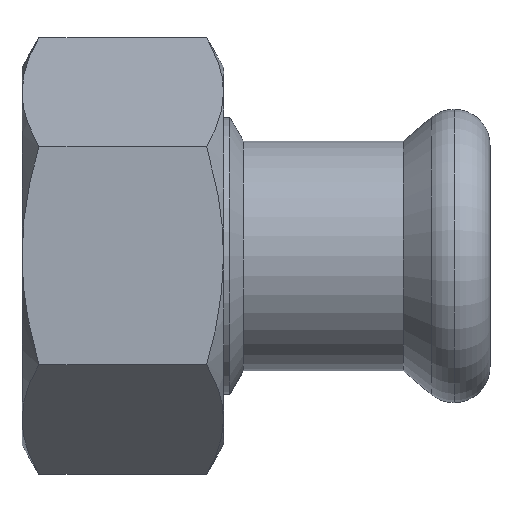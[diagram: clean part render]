
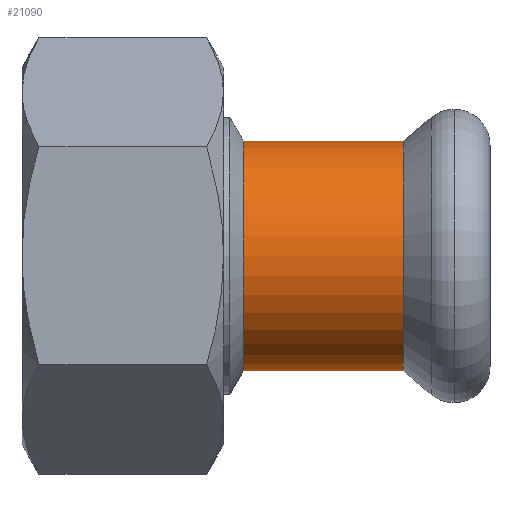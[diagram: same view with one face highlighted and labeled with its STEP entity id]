
A CAD part, top view. The second image highlights one B-rep face of the part: STEP entity #21090.
In plain terms, the highlighted cylindrical face has radius 9.125 mm (diameter 18.25 mm), a partial arc.
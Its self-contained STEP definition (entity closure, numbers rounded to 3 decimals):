
#20440=CARTESIAN_POINT('',(191.445,22.852,
0.));
#20450=VERTEX_POINT('',#20440);
#20630=CARTESIAN_POINT('',(191.445,4.602,
0.));
#20640=VERTEX_POINT('',#20630);
#20670=CARTESIAN_POINT('',(191.445,13.727,
0.));
#20680=DIRECTION('',(-1.,0.,0.));
#20690=DIRECTION('',(0.,-1.,0.));
#20700=AXIS2_PLACEMENT_3D('',#20670,#20680,#20690);
#20710=CIRCLE('',#20700,9.125);
#20770=CARTESIAN_POINT('',(198.27,13.727,
0.));
#20780=DIRECTION('',(1.,0.,0.));
#20790=DIRECTION('',(0.,-1.,0.));
#20800=AXIS2_PLACEMENT_3D('',#20770,#20780,#20790);
#20810=CYLINDRICAL_SURFACE('',#20800,9.125);
#20820=CARTESIAN_POINT('',(198.27,4.602,
0.));
#20830=DIRECTION('',(1.,0.,0.));
#20840=VECTOR('',#20830,1.);
#20850=LINE('',#20820,#20840);
#20860=CARTESIAN_POINT('',(204.124,4.602,
0.));
#20870=VERTEX_POINT('',#20860);
#20880=EDGE_CURVE('',#20640,#20870,#20850,.T.);
#20890=ORIENTED_EDGE('',*,*,#20880,.T.);
#20900=EDGE_CURVE('',#20640,#20450,#20710,.T.);
#20910=ORIENTED_EDGE('',*,*,#20900,.F.);
#20920=CARTESIAN_POINT('',(198.27,22.852,
0.));
#20930=DIRECTION('',(1.,0.,0.));
#20940=VECTOR('',#20930,1.);
#20950=LINE('',#20920,#20940);
#20960=CARTESIAN_POINT('',(204.124,22.852,
0.));
#20970=VERTEX_POINT('',#20960);
#20980=EDGE_CURVE('',#20450,#20970,#20950,.T.);
#20990=ORIENTED_EDGE('',*,*,#20980,.F.);
#21000=CARTESIAN_POINT('',(204.124,13.727,
0.));
#21010=DIRECTION('',(1.,0.,0.));
#21020=DIRECTION('',(0.,-1.,0.));
#21030=AXIS2_PLACEMENT_3D('',#21000,#21010,#21020);
#21040=CIRCLE('',#21030,9.125);
#21050=EDGE_CURVE('',#20970,#20870,#21040,.T.);
#21060=ORIENTED_EDGE('',*,*,#21050,.F.);
#21070=EDGE_LOOP('',(#21060,#20990,#20910,#20890));
#21080=FACE_OUTER_BOUND('',#21070,.T.);
#21090=ADVANCED_FACE('',(#21080),#20810,.T.);
